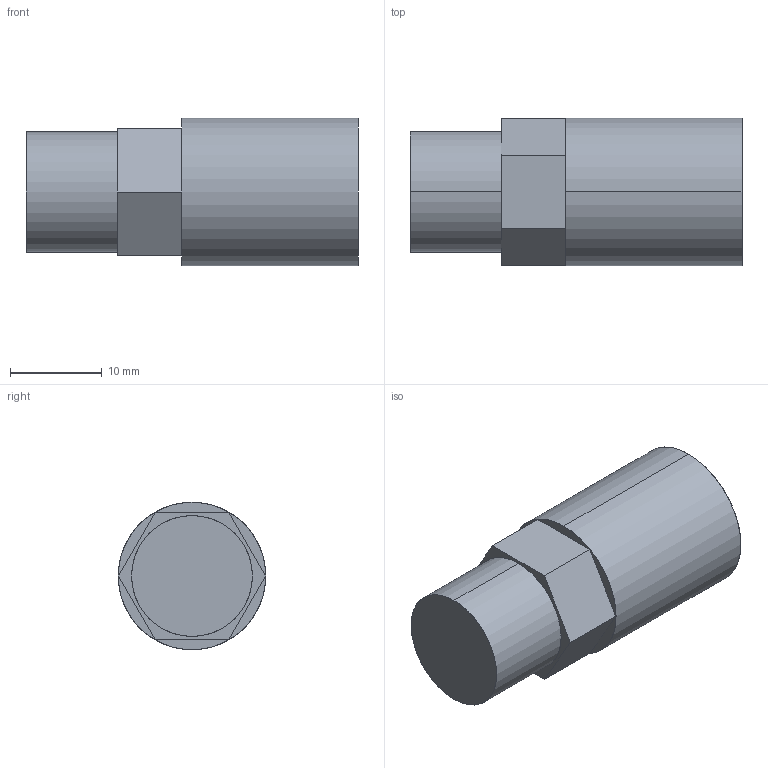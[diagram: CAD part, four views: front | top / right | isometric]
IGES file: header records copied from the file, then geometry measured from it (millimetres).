
Start section: SolidWorks IGES file using analytic representation for surfaces
Global section: file name: \\server\Users\Karen.Bodily\My Documents\defeatured\parts\muffler.IGS; native system: SolidWorks 2012; preprocessor: SolidWorks 2012; author: karen.bodily; date: 130424.090328; units: inch
Bounding box: 36.22 x 16.1 x 16.1 mm (x, y, z)
Surface area: 2130.5 mm2 (no closed solid volume)
Topology: 0 solids, 0 shells, 14 faces, 180 edges, 180 vertices
Faces by surface type: bspline 10, revolution 4
